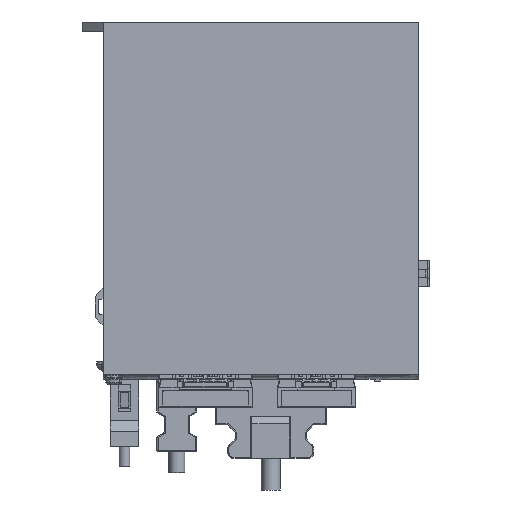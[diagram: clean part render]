
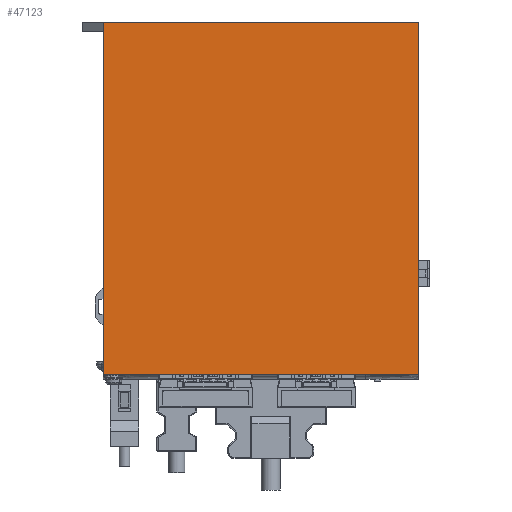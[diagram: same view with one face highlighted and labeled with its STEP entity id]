
A CAD part, front view. The second image highlights one B-rep face of the part: STEP entity #47123.
In plain terms, the highlighted planar face has unit normal (0, -1, 0).
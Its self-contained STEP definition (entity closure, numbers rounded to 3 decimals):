
#3281 = FACE_OUTER_BOUND ( 'NONE', #30022, .T. ) ;
#5191 = EDGE_CURVE ( 'NONE', #45532, #106863, #5360, .T. ) ;
#5360 = LINE ( 'NONE', #75713, #54855 ) ;
#15606 = DIRECTION ( 'NONE',  ( 0., 0., -1. ) ) ;
#21895 = DIRECTION ( 'NONE',  ( 1., 0., 0. ) ) ;
#22846 = EDGE_CURVE ( 'NONE', #45532, #105694, #152373, .T. ) ;
#25782 = EDGE_CURVE ( 'NONE', #105694, #148381, #98520, .T. ) ;
#30022 = EDGE_LOOP ( 'NONE', ( #41913, #96411, #116172, #96112 ) ) ;
#34208 = CARTESIAN_POINT ( 'NONE',  ( 0., 0., 88. ) ) ;
#41913 = ORIENTED_EDGE ( 'NONE', *, *, #25782, .F. ) ;
#43303 = VECTOR ( 'NONE', #144548, 1000. ) ;
#44022 = PLANE ( 'NONE',  #135272 ) ;
#45083 = DIRECTION ( 'NONE',  ( 0., 0., -1. ) ) ;
#45532 = VERTEX_POINT ( 'NONE', #63963 ) ;
#47123 = ADVANCED_FACE ( 'NONE', ( #3281 ), #44022, .T. ) ;
#47865 = CARTESIAN_POINT ( 'NONE',  ( 0., 0., -79.5 ) ) ;
#49788 = VECTOR ( 'NONE', #141183, 1000. ) ;
#54855 = VECTOR ( 'NONE', #15606, 1000. ) ;
#59702 = CARTESIAN_POINT ( 'NONE',  ( -150., 0., -79.5 ) ) ;
#63158 = LINE ( 'NONE', #59702, #124037 ) ;
#63963 = CARTESIAN_POINT ( 'NONE',  ( -150., 0., 88. ) ) ;
#74673 = CARTESIAN_POINT ( 'NONE',  ( -150., 0., -79.5 ) ) ;
#75713 = CARTESIAN_POINT ( 'NONE',  ( -150., 0., -79.5 ) ) ;
#81674 = DIRECTION ( 'NONE',  ( 0., -1., 0. ) ) ;
#90172 = EDGE_CURVE ( 'NONE', #106863, #148381, #63158, .T. ) ;
#96112 = ORIENTED_EDGE ( 'NONE', *, *, #90172, .T. ) ;
#96411 = ORIENTED_EDGE ( 'NONE', *, *, #22846, .F. ) ;
#98520 = LINE ( 'NONE', #47865, #43303 ) ;
#105694 = VERTEX_POINT ( 'NONE', #34208 ) ;
#106863 = VERTEX_POINT ( 'NONE', #74673 ) ;
#116172 = ORIENTED_EDGE ( 'NONE', *, *, #5191, .T. ) ;
#116805 = CARTESIAN_POINT ( 'NONE',  ( -150., 0., 88. ) ) ;
#124037 = VECTOR ( 'NONE', #21895, 1000. ) ;
#135272 = AXIS2_PLACEMENT_3D ( 'NONE', #141741, #81674, #45083 ) ;
#141183 = DIRECTION ( 'NONE',  ( 1., 0., 0. ) ) ;
#141741 = CARTESIAN_POINT ( 'NONE',  ( -150., 0., -79.5 ) ) ;
#144548 = DIRECTION ( 'NONE',  ( 0., 0., -1. ) ) ;
#148381 = VERTEX_POINT ( 'NONE', #152296 ) ;
#152296 = CARTESIAN_POINT ( 'NONE',  ( 0., 0., -79.5 ) ) ;
#152373 = LINE ( 'NONE', #116805, #49788 ) ;
